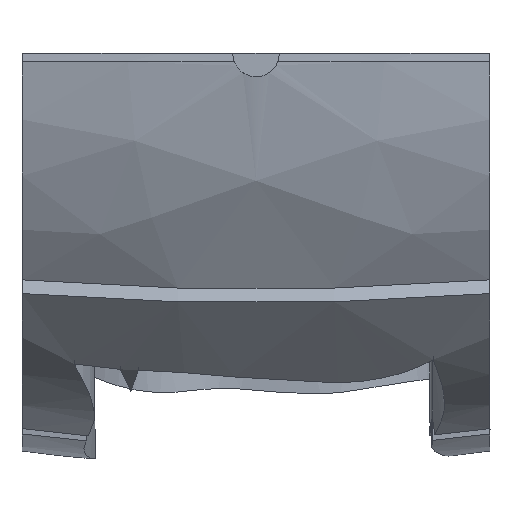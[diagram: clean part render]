
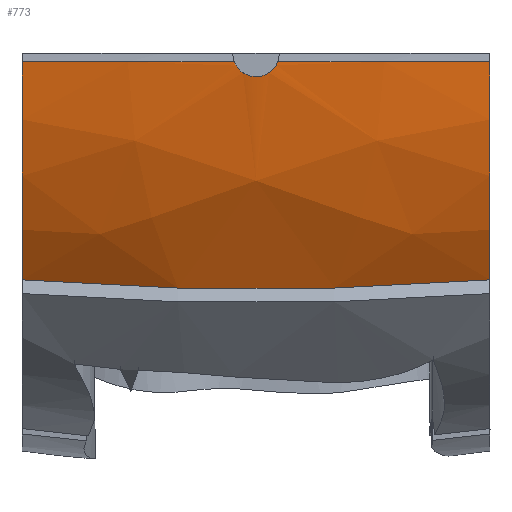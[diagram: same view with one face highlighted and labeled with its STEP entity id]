
A CAD part, top view. The second image highlights one B-rep face of the part: STEP entity #773.
In plain terms, the highlighted free-form (B-spline) face has degree [2, 2] with [3, 3] control points.
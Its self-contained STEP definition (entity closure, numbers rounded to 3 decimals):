
#26=B_SPLINE_CURVE_WITH_KNOTS('',3,(#1059,#1060,#1061,#1062),
 .UNSPECIFIED.,.F.,.F.,(4,4),(4.876,8.522),
 .UNSPECIFIED.);
#27=B_SPLINE_CURVE_WITH_KNOTS('',3,(#1075,#1076,#1077,#1078,#1079,#1080,
#1081,#1082,#1083,#1084,#1085,#1086,#1087,#1088,#1089,#1090,#1091,#1092,
#1093,#1094),.UNSPECIFIED.,.F.,.F.,(4,2,2,2,2,2,2,2,2,4),(-1.112,
-1.045,-0.901,-0.765,-0.664,
-0.571,-0.463,-0.317,-0.159,
-0.15),.UNSPECIFIED.);
#28=B_SPLINE_CURVE_WITH_KNOTS('',3,(#1096,#1097,#1098,#1099),
 .UNSPECIFIED.,.F.,.F.,(4,4),(9.268,12.914),
 .UNSPECIFIED.);
#29=B_SPLINE_CURVE_WITH_KNOTS('',3,(#1102,#1103,#1104,#1105,#1106,#1107),
 .UNSPECIFIED.,.F.,.F.,(4,2,4),(4.875,8.894,12.913),
 .UNSPECIFIED.);
#82=(
BOUNDED_SURFACE()
B_SPLINE_SURFACE(2,2,((#1063,#1064,#1065),(#1066,#1067,#1068),(#1069,#1070,
#1071)),.UNSPECIFIED.,.F.,.F.,.F.)
B_SPLINE_SURFACE_WITH_KNOTS((3,3),(3,3),(-0.134,0.134),
(-0.608,-0.021),.UNSPECIFIED.)
GEOMETRIC_REPRESENTATION_ITEM()
RATIONAL_B_SPLINE_SURFACE(((1.,0.957,1.),(0.991,
0.949,0.991),(1.,0.957,1.)))
REPRESENTATION_ITEM('')
SURFACE()
);
#125=FACE_OUTER_BOUND('',#171,.T.);
#171=EDGE_LOOP('',(#527,#528,#529,#530,#531,#532));
#279=CIRCLE('',#837,67.865);
#280=CIRCLE('',#838,67.865);
#311=VERTEX_POINT('',#1042);
#314=VERTEX_POINT('',#1052);
#315=VERTEX_POINT('',#1072);
#316=VERTEX_POINT('',#1074);
#317=VERTEX_POINT('',#1095);
#318=VERTEX_POINT('',#1100);
#398=EDGE_CURVE('',#311,#314,#26,.T.);
#399=EDGE_CURVE('',#315,#311,#279,.T.);
#400=EDGE_CURVE('',#314,#316,#27,.T.);
#401=EDGE_CURVE('',#316,#317,#28,.T.);
#402=EDGE_CURVE('',#317,#318,#280,.T.);
#403=EDGE_CURVE('',#318,#315,#29,.T.);
#527=ORIENTED_EDGE('',*,*,#399,.T.);
#528=ORIENTED_EDGE('',*,*,#398,.T.);
#529=ORIENTED_EDGE('',*,*,#400,.T.);
#530=ORIENTED_EDGE('',*,*,#401,.T.);
#531=ORIENTED_EDGE('',*,*,#402,.T.);
#532=ORIENTED_EDGE('',*,*,#403,.T.);
#773=ADVANCED_FACE('',(#125),#82,.F.);
#837=AXIS2_PLACEMENT_3D('',#1073,#904,#905);
#838=AXIS2_PLACEMENT_3D('',#1101,#906,#907);
#904=DIRECTION('center_axis',(-1.,0.,0.));
#905=DIRECTION('ref_axis',(0.,0.,1.));
#906=DIRECTION('center_axis',(1.,0.,0.));
#907=DIRECTION('ref_axis',(0.,0.,1.));
#1042=CARTESIAN_POINT('',(137.5,-1.452,67.85));
#1052=CARTESIAN_POINT('',(101.227,-1.452,70.506));
#1059=CARTESIAN_POINT('Ctrl Pts',(137.5,-1.452,67.85));
#1060=CARTESIAN_POINT('Ctrl Pts',(125.488,-1.452,69.466));
#1061=CARTESIAN_POINT('Ctrl Pts',(113.374,-1.452,70.355));
#1062=CARTESIAN_POINT('Ctrl Pts',(101.227,-1.452,70.506));
#1063=CARTESIAN_POINT('Ctrl Pts',(137.5,-38.752,55.714));
#1064=CARTESIAN_POINT('Ctrl Pts',(137.5,-21.909,67.429));
#1065=CARTESIAN_POINT('Ctrl Pts',(137.5,-1.397,67.851));
#1066=CARTESIAN_POINT('Ctrl Pts',(97.5,-41.825,60.131));
#1067=CARTESIAN_POINT('Ctrl Pts',(97.5,-23.646,72.775));
#1068=CARTESIAN_POINT('Ctrl Pts',(97.5,-1.508,73.231));
#1069=CARTESIAN_POINT('Ctrl Pts',(57.5,-38.752,55.714));
#1070=CARTESIAN_POINT('Ctrl Pts',(57.5,-21.909,67.429));
#1071=CARTESIAN_POINT('Ctrl Pts',(57.5,-1.397,67.851));
#1072=CARTESIAN_POINT('',(137.5,-38.707,55.745));
#1073=CARTESIAN_POINT('Origin',(137.5,0.,0.));
#1074=CARTESIAN_POINT('',(93.773,-1.452,70.506));
#1075=CARTESIAN_POINT('Ctrl Pts',(101.227,-1.452,70.506));
#1076=CARTESIAN_POINT('Ctrl Pts',(101.147,-1.659,70.503));
#1077=CARTESIAN_POINT('Ctrl Pts',(101.049,-1.859,70.499));
#1078=CARTESIAN_POINT('Ctrl Pts',(100.689,-2.462,70.485));
#1079=CARTESIAN_POINT('Ctrl Pts',(100.371,-2.827,70.474));
#1080=CARTESIAN_POINT('Ctrl Pts',(99.644,-3.407,70.455));
#1081=CARTESIAN_POINT('Ctrl Pts',(99.246,-3.627,70.446));
#1082=CARTESIAN_POINT('Ctrl Pts',(98.502,-3.887,70.435));
#1083=CARTESIAN_POINT('Ctrl Pts',(98.171,-3.958,70.432));
#1084=CARTESIAN_POINT('Ctrl Pts',(97.524,-4.012,70.43));
#1085=CARTESIAN_POINT('Ctrl Pts',(97.211,-4.002,70.43));
#1086=CARTESIAN_POINT('Ctrl Pts',(96.549,-3.902,70.435));
#1087=CARTESIAN_POINT('Ctrl Pts',(96.203,-3.801,70.439));
#1088=CARTESIAN_POINT('Ctrl Pts',(95.432,-3.458,70.453));
#1089=CARTESIAN_POINT('Ctrl Pts',(95.028,-3.182,70.463));
#1090=CARTESIAN_POINT('Ctrl Pts',(94.308,-2.468,70.485));
#1091=CARTESIAN_POINT('Ctrl Pts',(94.011,-2.026,70.496));
#1092=CARTESIAN_POINT('Ctrl Pts',(93.796,-1.51,70.505));
#1093=CARTESIAN_POINT('Ctrl Pts',(93.784,-1.481,70.505));
#1094=CARTESIAN_POINT('Ctrl Pts',(93.773,-1.452,70.506));
#1095=CARTESIAN_POINT('',(57.5,-1.452,67.85));
#1096=CARTESIAN_POINT('Ctrl Pts',(93.773,-1.452,70.506));
#1097=CARTESIAN_POINT('Ctrl Pts',(81.626,-1.452,70.355));
#1098=CARTESIAN_POINT('Ctrl Pts',(69.512,-1.452,69.466));
#1099=CARTESIAN_POINT('Ctrl Pts',(57.5,-1.452,67.85));
#1100=CARTESIAN_POINT('',(57.5,-38.707,55.745));
#1101=CARTESIAN_POINT('Origin',(57.5,0.,0.));
#1102=CARTESIAN_POINT('Ctrl Pts',(57.5,-38.707,55.745));
#1103=CARTESIAN_POINT('Ctrl Pts',(70.742,-39.754,57.187));
#1104=CARTESIAN_POINT('Ctrl Pts',(84.107,-40.281,57.913));
#1105=CARTESIAN_POINT('Ctrl Pts',(110.899,-40.281,57.912));
#1106=CARTESIAN_POINT('Ctrl Pts',(124.261,-39.754,57.186));
#1107=CARTESIAN_POINT('Ctrl Pts',(137.5,-38.707,55.745));
